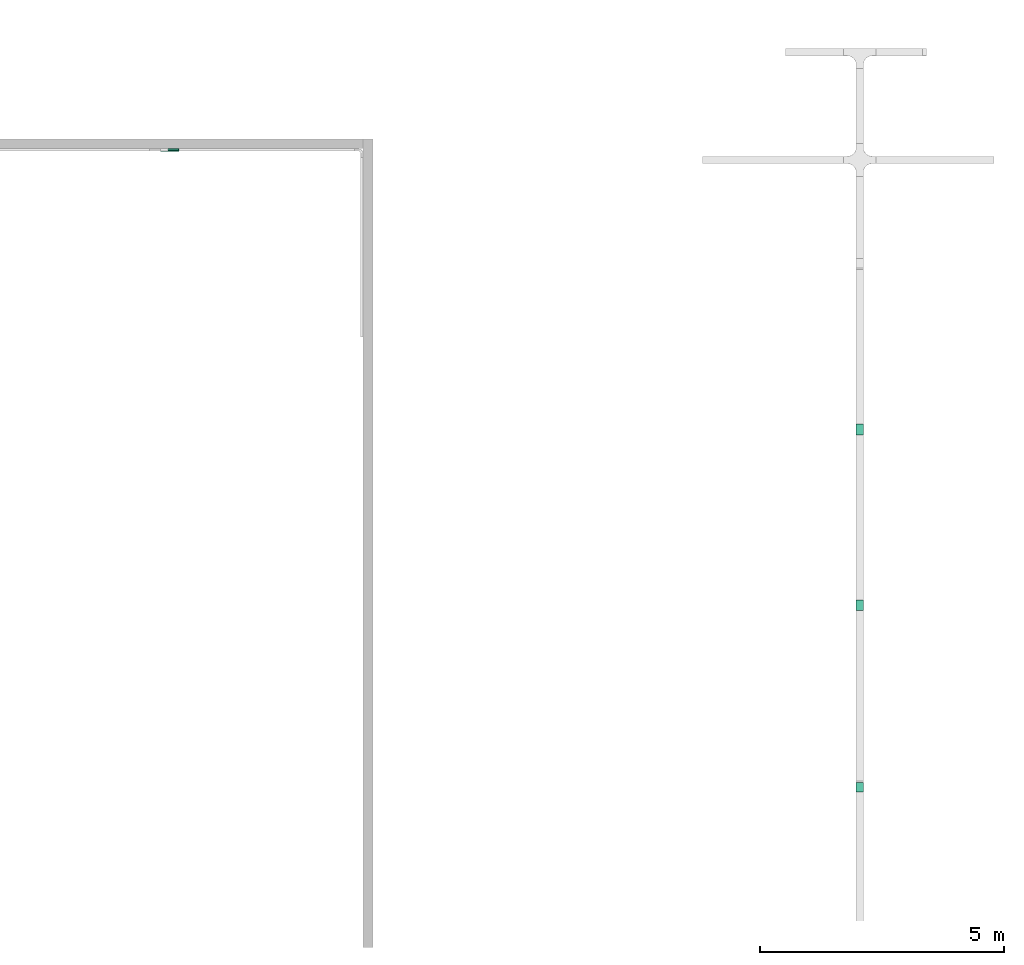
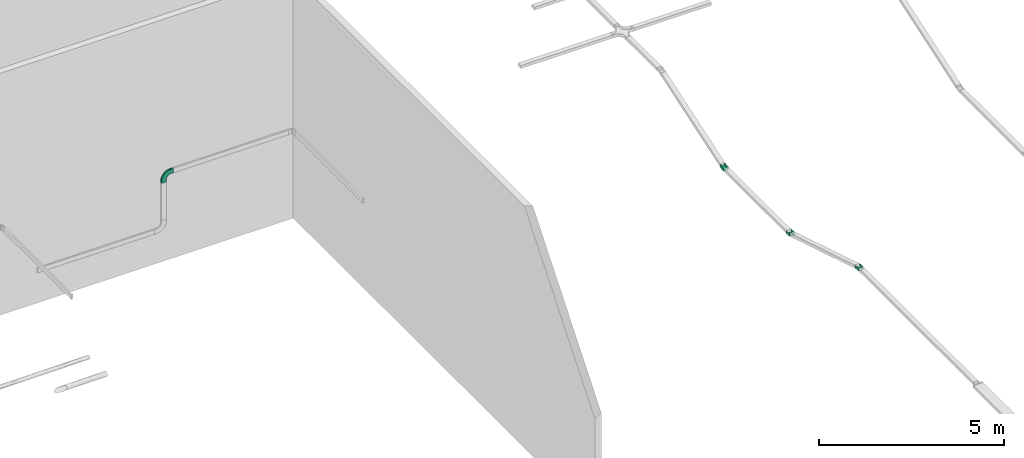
# One storey, part 39 of 197: 4 flow fittings.
"""IFC2X3 building model written with IfcOpenShell, lengths in metres."""

from ifc_helpers import new_model, entity, si_unit, converted_unit, direction, frame, origin, place, context, subcontext, project, spatial, faceted_brep, source, transform, mapped, material, type_object, type_shapes, element, save


model = new_model("IFC2X3")

# Units and contexts
model_context = context("Model", 3, precision=1e-05, world=origin(), true_north=direction((6.123031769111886e-17, 1.0)))
body_context = subcontext(model_context, "Body", "Model", "MODEL_VIEW")
ifc_project = project(units=[si_unit("LENGTHUNIT", "METRE"), converted_unit("PLANEANGLEUNIT", "DEGREE", entity("IfcPlaneAngleMeasure", 0.017453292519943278), si_unit("PLANEANGLEUNIT", "RADIAN"), dimensions=[0, 0, 0, 0, 0, 0, 0]), si_unit("AREAUNIT", "SQUARE_METRE")], contexts=[model_context])

# Site, building, storey
site_placement = place(None, origin())
site = spatial("IfcSite", under=ifc_project, at=site_placement, Name="Default", CompositionType="ELEMENT")
building_placement = place(site_placement, origin())
building = spatial("IfcBuilding", under=site, at=building_placement, CompositionType="ELEMENT")
storey_placement = place(building_placement, origin())
storey = spatial("IfcBuildingStorey", under=building, at=storey_placement, Name="Niveau 0", CompositionType="ELEMENT", Elevation=0.0)

# Flow fittings
ifc_material = material(Name="<Unnamed>")
cable_carrier_fitting_type_1 = type_object("IfcCableCarrierFittingType", Name="Chemin de câbles - Courbure convexe:CDC CFA", PredefinedType="NOTDEFINED", material=ifc_material)
shared_shape_1 = source(origin(), body_context, "Body", "Brep", [
    faceted_brep([(-0.10489020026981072, -0.050000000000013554, -0.07500000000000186), (-0.10489020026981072, -0.050000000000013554, -0.07246000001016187), (-0.10489020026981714, 0.04746000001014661, -0.07246000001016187), (-0.10489020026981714, 0.047460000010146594, 0.07246000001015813), (-0.10489020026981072, -0.050000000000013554, 0.07246000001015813), (-0.10489020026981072, -0.050000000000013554, 0.07499999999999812), (-0.10489020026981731, 0.04999999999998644, 0.07499999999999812), (-0.10489020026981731, 0.04999999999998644, -0.07500000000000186), (-0.029890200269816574, -0.050000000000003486, 0.07499999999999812), (-0.021295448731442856, -0.04936129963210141, 0.07499999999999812), (-0.011414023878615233, -0.048626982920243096, 0.07499999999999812), (-0.00217593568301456, -0.0479404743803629, 0.07499999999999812), (0.007062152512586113, -0.0472539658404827, 0.07499999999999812), (0.016097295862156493, -0.045209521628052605, 0.07499999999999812), (0.025132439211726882, -0.04316507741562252, 0.07499999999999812), (0.03479678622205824, -0.04097825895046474, 0.07499999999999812), (0.04320272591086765, -0.03907618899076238, 0.07499999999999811), (0.11492558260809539, -0.017148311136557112, 0.0749999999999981), (0.08568841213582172, 0.07848216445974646, 0.0749999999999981), (0.013965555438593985, 0.056554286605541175, 0.07499999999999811), (-0.007718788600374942, 0.05164762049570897, 0.07499999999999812), (-0.029890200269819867, 0.04999999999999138, 0.07499999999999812), (-0.029890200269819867, 0.04999999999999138, -0.07500000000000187), (-0.007718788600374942, 0.05164762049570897, -0.07500000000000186), (0.013965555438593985, 0.05655428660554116, -0.07500000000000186), (0.08568841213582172, 0.07848216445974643, -0.07500000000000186), (0.11492558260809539, -0.017148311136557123, -0.07500000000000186), (0.04320272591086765, -0.039076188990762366, -0.07500000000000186), (0.0347967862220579, -0.040978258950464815, -0.07500000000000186), (0.025132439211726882, -0.04316507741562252, -0.07500000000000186), (0.01609729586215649, -0.045209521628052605, -0.07500000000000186), (0.007062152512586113, -0.0472539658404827, -0.07500000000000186), (-0.002819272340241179, -0.047988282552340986, -0.07500000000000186), (-0.012700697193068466, -0.04872259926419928, -0.07500000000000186), (-0.029890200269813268, -0.050000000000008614, -0.07500000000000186), (-0.029890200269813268, -0.050000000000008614, -0.07246000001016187), (-0.029890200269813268, -0.050000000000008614, 0.07246000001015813), (-0.020652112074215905, -0.049313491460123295, -0.07246000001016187), (-0.011414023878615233, -0.048626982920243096, -0.07246000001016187), (-0.0021759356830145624, -0.0479404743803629, -0.07246000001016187), (0.007062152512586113, -0.0472539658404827, -0.07246000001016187), (0.016097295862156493, -0.045209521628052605, -0.07246000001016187), (0.02513243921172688, -0.04316507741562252, -0.07246000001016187), (0.03416758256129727, -0.041120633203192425, -0.07246000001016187), (0.04320272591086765, -0.03907618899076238, -0.07246000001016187), (0.11492558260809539, -0.017148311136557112, -0.07246000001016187), (0.08643103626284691, 0.07605315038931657, -0.07246000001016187), (0.01470817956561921, 0.0541252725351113, -0.07246000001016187), (-0.007343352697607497, 0.04913552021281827, -0.07246000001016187), (-0.029890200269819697, 0.047460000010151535, -0.07246000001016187), (-0.029890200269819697, 0.04746000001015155, 0.07246000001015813), (-0.007343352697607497, 0.04913552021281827, 0.07246000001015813), (0.014708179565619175, 0.05412527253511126, 0.07246000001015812), (0.08643103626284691, 0.07605315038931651, 0.07246000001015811), (0.11492558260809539, -0.01714831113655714, 0.07246000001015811), (0.04320272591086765, -0.039076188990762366, 0.07246000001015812), (0.03416758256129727, -0.041120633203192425, 0.07246000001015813), (0.02513243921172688, -0.04316507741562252, 0.07246000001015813), (0.01609729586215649, -0.045209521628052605, 0.07246000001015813), (0.007062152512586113, -0.0472539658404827, 0.07246000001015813), (-0.0021759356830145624, -0.0479404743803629, 0.07246000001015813), (-0.011414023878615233, -0.048626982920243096, 0.07246000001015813), (-0.020652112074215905, -0.049313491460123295, 0.07246000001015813)], [[[0, 1, 2, 3, 4, 5, 6, 7]], [[5, 8, 9, 10, 11, 12, 13, 14, 15, 16, 17, 18, 19, 20, 21, 6]], [[7, 6, 21, 22]], [[7, 22, 23, 24, 25, 26, 27, 28, 29, 30, 31, 32, 33, 34, 0]], [[1, 0, 34, 35]], [[5, 4, 36, 8]], [[1, 35, 37, 38, 39, 40, 41, 42, 43, 44, 45, 46, 47, 48, 49, 2]], [[3, 2, 49, 50]], [[3, 50, 51, 52, 53, 54, 55, 56, 57, 58, 59, 60, 61, 62, 36, 4]], [[22, 21, 20, 23]], [[19, 24, 23, 20]], [[38, 37, 35, 34, 33, 32, 31, 40, 39]], [[9, 8, 36, 62, 61, 60, 59, 12, 11, 10]], [[28, 27, 44, 43, 42, 41, 40, 31, 30, 29]], [[12, 59, 58, 57, 56, 55, 16, 15, 14, 13]], [[51, 50, 49, 48]], [[51, 48, 47, 52]], [[25, 18, 17, 54, 53, 46, 45, 26]], [[24, 19, 18, 25]], [[44, 27, 26, 45]], [[16, 55, 54, 17]], [[52, 47, 46, 53]]]),
])
type_shapes(cable_carrier_fitting_type_1, [shared_shape_1])
flow_fitting_1_placement = place(storey_placement, frame((-510.12398006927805, 138.7895130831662, 2.7499999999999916), z_axis=(-1.0, 0.0, 0.0), x_axis=(0.0, 1.0, 0.0)))
element("IfcFlowFitting", 1, at=flow_fitting_1_placement, inside=storey, type_object=cable_carrier_fitting_type_1, material=ifc_material, Name="Chemin de câbles - Courbure convexe:CDC CFA", ObjectType="Chemin de câbles - Courbure convexe:CDC CFA", context=body_context, shape_type="MappedRepresentation", body=[
    mapped(shared_shape_1, transform((0.0, 0.0, 0.0), scale=1.0)),
])
cable_carrier_fitting_type_2 = type_object("IfcCableCarrierFittingType", Name="Chemin de câbles - Courbure concave:CDC CFA", PredefinedType="NOTDEFINED", material=ifc_material)
shared_shape_2 = source(origin(), body_context, "Body", "Brep", [
    faceted_brep([(-0.10489020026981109, -0.047460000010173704, -0.07246000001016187), (-0.10489020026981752, 0.04999999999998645, -0.07246000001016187), (-0.10489020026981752, 0.04999999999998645, -0.07500000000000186), (-0.10489020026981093, -0.05000000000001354, -0.07500000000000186), (-0.10489020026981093, -0.05000000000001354, 0.07499999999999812), (-0.10489020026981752, 0.04999999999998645, 0.07499999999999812), (-0.10489020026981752, 0.04999999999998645, 0.07246000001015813), (-0.10489020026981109, -0.04746000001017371, 0.07246000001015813), (-0.02989020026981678, -0.050000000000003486, 0.07499999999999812), (0.007062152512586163, -0.047253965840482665, 0.07499999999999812), (0.04320272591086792, -0.03907618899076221, 0.07499999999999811), (0.11492558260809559, -0.01714831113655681, 0.0749999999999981), (0.08568841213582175, 0.07848216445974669, 0.0749999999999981), (0.013965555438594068, 0.05655428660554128, 0.07499999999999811), (0.0031233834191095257, 0.05410095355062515, 0.07499999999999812), (-0.00771878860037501, 0.05164762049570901, 0.07499999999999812), (-0.01880449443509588, 0.05082381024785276, 0.07499999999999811), (-0.029890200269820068, 0.04999999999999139, 0.07499999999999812), (-0.02989020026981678, -0.0500000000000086, -0.07500000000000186), (-0.02989020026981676, 0.04999999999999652, -0.07500000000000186), (-0.016575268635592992, 0.05098947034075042, -0.07500000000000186), (-0.00771878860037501, 0.05164762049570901, -0.07500000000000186), (0.0009431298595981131, 0.05360761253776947, -0.07500000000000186), (0.013965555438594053, 0.056554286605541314, -0.07500000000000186), (0.08568841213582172, 0.0784821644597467, -0.07500000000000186), (0.11492558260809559, -0.017148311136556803, -0.07500000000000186), (0.043202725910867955, -0.03907618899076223, -0.07500000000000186), (0.007062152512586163, -0.047253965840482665, -0.07500000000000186), (-0.02989020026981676, 0.04999999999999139, -0.07246000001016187), (-0.02989020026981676, 0.04999999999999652, 0.07246000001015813), (-0.02989020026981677, -0.047460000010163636, -0.07246000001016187), (0.006686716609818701, -0.04474186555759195, -0.07246000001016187), (0.0424601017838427, -0.03664717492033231, -0.07246000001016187), (0.11418295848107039, -0.014719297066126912, -0.07246000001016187), (0.08568841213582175, 0.07848216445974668, -0.07246000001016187), (0.013965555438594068, 0.05655428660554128, -0.07246000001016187), (0.0031233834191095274, 0.05410095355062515, -0.07246000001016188), (-0.00771878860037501, 0.05164762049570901, -0.07246000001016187), (-0.01880449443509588, 0.05082381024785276, -0.07246000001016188), (-0.02989020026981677, -0.047460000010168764, 0.07246000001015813), (-0.01880449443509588, 0.05082381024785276, 0.07246000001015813), (-0.00771878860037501, 0.05164762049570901, 0.07246000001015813), (0.003123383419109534, 0.05410095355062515, 0.07246000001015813), (0.013965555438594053, 0.05655428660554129, 0.07246000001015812), (0.08568841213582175, 0.07848216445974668, 0.07246000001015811), (0.11418295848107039, -0.014719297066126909, 0.07246000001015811), (0.042460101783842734, -0.036647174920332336, 0.07246000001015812), (0.006686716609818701, -0.04474186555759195, 0.07246000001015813)], [[[0, 1, 2, 3, 4, 5, 6, 7]], [[4, 8, 9, 10, 11, 12, 13, 14, 15, 16, 17, 5]], [[4, 3, 18, 8]], [[2, 19, 20, 21, 22, 23, 24, 25, 26, 27, 18, 3]], [[2, 1, 28, 19]], [[6, 5, 17, 29]], [[0, 30, 31, 32, 33, 34, 35, 36, 37, 38, 28, 1]], [[0, 7, 39, 30]], [[6, 29, 40, 41, 42, 43, 44, 45, 46, 47, 39, 7]], [[9, 8, 18, 27]], [[9, 27, 26, 10]], [[21, 20, 19, 28, 38, 37]], [[17, 16, 15, 41, 40, 29]], [[36, 35, 23, 22, 21, 37]], [[15, 14, 13, 43, 42, 41]], [[31, 30, 39, 47]], [[46, 32, 31, 47]], [[24, 34, 33, 45, 44, 12, 11, 25]], [[10, 26, 25, 11]], [[23, 35, 34, 24]], [[43, 13, 12, 44]], [[32, 46, 45, 33]]]),
])
type_shapes(cable_carrier_fitting_type_2, [shared_shape_2])
flow_fitting_2_placement = place(storey_placement, frame((-510.12398006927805, 142.50858227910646, 1.6129664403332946), z_axis=(1.0, 0.0, 0.0), x_axis=(0.0, 0.9563047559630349, -0.2923717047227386)))
element("IfcFlowFitting", 2, at=flow_fitting_2_placement, inside=storey, type_object=cable_carrier_fitting_type_2, material=ifc_material, Name="Chemin de câbles - Courbure concave:CDC CFA", ObjectType="Chemin de câbles - Courbure concave:CDC CFA", context=body_context, shape_type="MappedRepresentation", body=[
    mapped(shared_shape_2, transform((0.0, 0.0, 0.0), scale=1.0)),
])
cable_carrier_fitting_type_3 = type_object("IfcCableCarrierFittingType", Name="Chemin de câbles - Courbure concave:CDC CFA", PredefinedType="NOTDEFINED", material=ifc_material)
shared_shape_3 = source(origin(), body_context, "Body", "Brep", [
    faceted_brep([(-0.10757218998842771, -0.047460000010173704, -0.07246000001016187), (-0.10757218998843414, 0.04999999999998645, -0.07246000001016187), (-0.10757218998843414, 0.04999999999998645, -0.07500000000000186), (-0.10757218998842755, -0.05000000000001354, -0.07500000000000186), (-0.10757218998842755, -0.05000000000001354, 0.07499999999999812), (-0.10757218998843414, 0.04999999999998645, 0.07499999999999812), (-0.10757218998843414, 0.04999999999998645, 0.07246000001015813), (-0.10757218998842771, -0.04746000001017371, 0.07246000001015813), (-0.0325721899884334, -0.050000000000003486, 0.07499999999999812), (0.007613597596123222, -0.046749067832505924, 0.07499999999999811), (0.046754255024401, -0.03708081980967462, 0.07499999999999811), (0.11787850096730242, -0.013282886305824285, 0.0749999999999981), (0.08614792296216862, 0.08154944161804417, 0.0749999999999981), (0.01502367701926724, 0.057751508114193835, 0.07499999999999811), (0.0032814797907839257, 0.05485103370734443, 0.07499999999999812), (-0.008460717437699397, 0.05195055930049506, 0.07499999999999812), (-0.020516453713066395, 0.050975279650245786, 0.07499999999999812), (-0.032572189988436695, 0.04999999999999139, 0.07499999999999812), (-0.0325721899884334, -0.0500000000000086, -0.07500000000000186), (-0.032572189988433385, 0.04999999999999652, -0.07500000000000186), (-0.01926626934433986, 0.05107641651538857, -0.07500000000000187), (-0.008460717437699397, 0.05195055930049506, -0.07500000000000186), (0.00206380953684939, 0.05455025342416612, -0.07500000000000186), (0.015023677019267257, 0.05775150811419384, -0.07500000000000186), (0.08614792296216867, 0.08154944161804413, -0.07500000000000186), (0.11787850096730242, -0.013282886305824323, -0.07500000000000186), (0.046754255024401, -0.03708081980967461, -0.07500000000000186), (0.007613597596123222, -0.046749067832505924, -0.07500000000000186), (-0.032572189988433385, 0.04999999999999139, -0.07246000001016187), (-0.032572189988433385, 0.04999999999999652, 0.07246000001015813), (-0.03257218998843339, -0.047460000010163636, -0.07246000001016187), (0.007205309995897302, -0.04424209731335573, -0.07246000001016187), (0.04594829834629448, -0.03467207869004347, -0.07246000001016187), (0.1170725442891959, -0.010874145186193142, -0.07246000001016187), (0.08614792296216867, 0.08154944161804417, -0.07246000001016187), (0.01502367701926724, 0.057751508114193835, -0.07246000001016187), (0.0032814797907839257, 0.05485103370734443, -0.07246000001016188), (-0.008460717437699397, 0.05195055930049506, -0.07246000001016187), (-0.020516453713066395, 0.050975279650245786, -0.07246000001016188), (-0.03257218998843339, -0.047460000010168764, 0.07246000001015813), (-0.020516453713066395, 0.050975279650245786, 0.07246000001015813), (-0.008460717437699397, 0.05195055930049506, 0.07246000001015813), (0.0032814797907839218, 0.054851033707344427, 0.07246000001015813), (0.01502367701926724, 0.057751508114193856, 0.07246000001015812), (0.08614792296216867, 0.08154944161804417, 0.07246000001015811), (0.11707254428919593, -0.010874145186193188, 0.07246000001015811), (0.04594829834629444, -0.0346720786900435, 0.07246000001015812), (0.007205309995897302, -0.04424209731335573, 0.07246000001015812)], [[[0, 1, 2, 3, 4, 5, 6, 7]], [[4, 8, 9, 10, 11, 12, 13, 14, 15, 16, 17, 5]], [[4, 3, 18, 8]], [[2, 19, 20, 21, 22, 23, 24, 25, 26, 27, 18, 3]], [[2, 1, 28, 19]], [[6, 5, 17, 29]], [[0, 30, 31, 32, 33, 34, 35, 36, 37, 38, 28, 1]], [[0, 7, 39, 30]], [[6, 29, 40, 41, 42, 43, 44, 45, 46, 47, 39, 7]], [[8, 18, 27, 9]], [[9, 27, 26, 10]], [[21, 20, 19, 28, 38, 37]], [[17, 16, 15, 41, 40, 29]], [[36, 35, 23, 22, 21, 37]], [[15, 14, 13, 43, 42, 41]], [[31, 30, 39, 47]], [[46, 32, 31, 47]], [[24, 34, 33, 45, 44, 12, 11, 25]], [[10, 26, 25, 11]], [[23, 35, 34, 24]], [[43, 13, 12, 44]], [[32, 46, 45, 33]]]),
])
type_shapes(cable_carrier_fitting_type_3, [shared_shape_3])
flow_fitting_3_placement = place(storey_placement, frame((-510.12398006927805, 146.09958227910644, 1.6129664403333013), z_axis=(1.0, 0.0, 0.0), x_axis=(0.0, 1.0, 0.0)))
element("IfcFlowFitting", 3, at=flow_fitting_3_placement, inside=storey, type_object=cable_carrier_fitting_type_3, material=ifc_material, Name="Chemin de câbles - Courbure concave:CDC CFA", ObjectType="Chemin de câbles - Courbure concave:CDC CFA", context=body_context, shape_type="MappedRepresentation", body=[
    mapped(shared_shape_3, transform((0.0, 0.0, 0.0), scale=1.0)),
])
cable_carrier_fitting_type_4 = type_object("IfcCableCarrierFittingType", Name="Chemin de câbles - Courbure convexe:GOULOTTE", PredefinedType="NOTDEFINED", material=ifc_material)
shared_shape_4 = source(origin(), body_context, "Body", "Brep", [
    faceted_brep([(-0.2999999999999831, -0.07500000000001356, -0.025000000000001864), (-0.2999999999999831, -0.07500000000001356, -0.022460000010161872), (-0.29999999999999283, 0.0724600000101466, -0.022460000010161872), (-0.29999999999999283, 0.0724600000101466, 0.022460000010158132), (-0.2999999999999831, -0.07500000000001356, 0.022460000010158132), (-0.2999999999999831, -0.07500000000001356, 0.024999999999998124), (-0.299999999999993, 0.07499999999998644, 0.024999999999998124), (-0.299999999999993, 0.07499999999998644, -0.025000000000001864), (-0.22499999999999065, -0.0750000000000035, 0.024999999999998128), (-0.21561089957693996, -0.07407525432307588, 0.024999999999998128), (-0.20622179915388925, -0.07315050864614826, 0.024999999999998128), (-0.19683269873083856, -0.07222576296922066, 0.024999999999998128), (-0.1874435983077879, -0.07130101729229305, 0.024999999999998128), (-0.17695825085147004, -0.07026830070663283, 0.024999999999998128), (-0.16647290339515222, -0.06923558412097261, 0.02499999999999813), (-0.15240342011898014, -0.06496765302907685, 0.024999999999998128), (-0.138333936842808, -0.0606997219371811, 0.024999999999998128), (-0.12426445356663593, -0.056431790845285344, 0.024999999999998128), (-0.11019497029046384, -0.05216385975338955, 0.02499999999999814), (-0.09722846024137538, -0.04523311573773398, 0.024999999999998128), (-0.08426195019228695, -0.038302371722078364, 0.02499999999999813), (-0.0712954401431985, -0.031371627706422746, 0.024999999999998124), (-0.05832893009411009, -0.02444088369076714, 0.02499999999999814), (-0.04696368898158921, -0.015113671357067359, 0.024999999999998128), (-0.035598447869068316, -0.0057864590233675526, 0.024999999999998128), (-0.024233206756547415, 0.0035407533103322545, 0.024999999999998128), (-0.012867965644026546, 0.01286796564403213, 0.024999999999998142), (-0.0035407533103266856, 0.02423320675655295, 0.024999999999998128), (0.005786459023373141, 0.03559844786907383, 0.024999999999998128), (0.015113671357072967, 0.04696368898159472, 0.024999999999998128), (0.02444088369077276, 0.058328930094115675, 0.024999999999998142), (0.031371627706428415, 0.071295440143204, 0.024999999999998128), (0.03830237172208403, 0.08426195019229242, 0.024999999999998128), (0.04523311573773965, 0.09722846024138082, 0.024999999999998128), (0.05216385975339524, 0.11019497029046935, 0.024999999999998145), (0.056431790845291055, 0.12426445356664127, 0.024999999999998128), (0.06069972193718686, 0.13833393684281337, 0.024999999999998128), (0.06496765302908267, 0.15240342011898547, 0.02499999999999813), (0.06923558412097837, 0.16647290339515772, 0.024999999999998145), (0.0706766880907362, 0.18110467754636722, 0.024999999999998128), (0.07211779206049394, 0.1957364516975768, 0.024999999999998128), (0.07315050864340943, 0.20622179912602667, 0.024999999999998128), (0.07407525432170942, 0.21561089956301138, 0.024999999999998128), (0.07500000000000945, 0.2249999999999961, 0.024999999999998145), (0.07500000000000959, 0.29999999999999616, 0.024999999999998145), (-0.07499999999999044, 0.29999999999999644, 0.02499999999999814), (-0.07499999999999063, 0.2249999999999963, 0.02499999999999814), (-0.08011112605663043, 0.1861771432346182, 0.02499999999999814), (-0.0950961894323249, 0.14999999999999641, 0.02499999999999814), (-0.11893398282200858, 0.11893398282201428, 0.02499999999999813), (-0.1499999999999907, 0.09509618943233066, 0.02499999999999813), (-0.18617714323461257, 0.08011112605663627, 0.02499999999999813), (-0.2249999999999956, 0.07499999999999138, 0.024999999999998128), (-0.2249999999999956, 0.07499999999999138, -0.025000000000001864), (-0.18617714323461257, 0.08011112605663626, -0.02500000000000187), (-0.1499999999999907, 0.09509618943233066, -0.02500000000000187), (-0.11893398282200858, 0.1189339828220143, -0.02500000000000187), (-0.0950961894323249, 0.1499999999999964, -0.025000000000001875), (-0.08011112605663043, 0.1861771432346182, -0.025000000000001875), (-0.07499999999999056, 0.2249999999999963, -0.025000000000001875), (-0.07499999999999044, 0.2999999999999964, -0.025000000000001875), (0.07500000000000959, 0.29999999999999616, -0.025000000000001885), (0.07500000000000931, 0.22499999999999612, -0.025000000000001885), (0.07407525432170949, 0.2156108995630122, -0.025000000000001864), (0.07315050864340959, 0.2062217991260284, -0.025000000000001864), (0.07211779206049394, 0.19573645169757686, -0.025000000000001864), (0.0706766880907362, 0.18110467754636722, -0.025000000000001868), (0.06923558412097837, 0.16647290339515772, -0.025000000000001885), (0.06496765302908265, 0.15240342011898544, -0.025000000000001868), (0.06069972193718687, 0.1383339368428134, -0.025000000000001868), (0.05643179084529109, 0.12426445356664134, -0.025000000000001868), (0.05216385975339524, 0.11019497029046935, -0.025000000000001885), (0.04523311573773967, 0.09722846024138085, -0.025000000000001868), (0.038302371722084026, 0.08426195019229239, -0.025000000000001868), (0.031371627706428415, 0.071295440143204, -0.025000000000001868), (0.02444088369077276, 0.058328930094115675, -0.02500000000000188), (0.015113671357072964, 0.04696368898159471, -0.025000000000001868), (0.005786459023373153, 0.03559844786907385, -0.025000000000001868), (-0.0035407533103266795, 0.024233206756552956, -0.025000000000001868), (-0.012867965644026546, 0.01286796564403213, -0.02500000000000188), (-0.024233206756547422, 0.003540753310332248, -0.025000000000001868), (-0.0355984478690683, -0.00578645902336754, -0.025000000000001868), (-0.046963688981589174, -0.015113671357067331, -0.02500000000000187), (-0.05832893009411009, -0.02444088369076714, -0.025000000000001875), (-0.07129544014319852, -0.03137162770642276, -0.025000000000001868), (-0.08426195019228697, -0.038302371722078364, -0.025000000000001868), (-0.09722846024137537, -0.04523311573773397, -0.025000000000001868), (-0.11019497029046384, -0.05216385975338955, -0.025000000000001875), (-0.12426445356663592, -0.056431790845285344, -0.025000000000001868), (-0.138333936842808, -0.0606997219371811, -0.025000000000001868), (-0.15240342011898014, -0.06496765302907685, -0.02500000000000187), (-0.16647290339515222, -0.06923558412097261, -0.02500000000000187), (-0.17695825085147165, -0.070268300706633, -0.025000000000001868), (-0.18744359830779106, -0.07130101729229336, -0.025000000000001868), (-0.19683269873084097, -0.0722257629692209, -0.025000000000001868), (-0.20622179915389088, -0.07315050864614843, -0.025000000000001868), (-0.21561089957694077, -0.07407525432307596, -0.025000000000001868), (-0.2249999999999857, -0.07500000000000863, -0.025000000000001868), (-0.2249999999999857, -0.07500000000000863, -0.02246000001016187), (-0.2249999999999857, -0.07500000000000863, 0.02246000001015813), (-0.21561089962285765, -0.07407525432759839, -0.02246000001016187), (-0.2062217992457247, -0.07315050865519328, -0.02246000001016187), (-0.19573645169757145, -0.07211779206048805, -0.02246000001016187), (-0.1811046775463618, -0.07067668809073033, -0.022460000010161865), (-0.16647290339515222, -0.06923558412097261, -0.022460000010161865), (-0.15240342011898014, -0.06496765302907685, -0.02246000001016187), (-0.138333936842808, -0.0606997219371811, -0.022460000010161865), (-0.12426445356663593, -0.056431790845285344, -0.02246000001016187), (-0.11019497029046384, -0.05216385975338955, -0.02246000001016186), (-0.09722846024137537, -0.045233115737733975, -0.02246000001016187), (-0.08426195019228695, -0.038302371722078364, -0.02246000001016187), (-0.07129544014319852, -0.03137162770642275, -0.02246000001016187), (-0.05832893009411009, -0.02444088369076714, -0.02246000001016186), (-0.046963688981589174, -0.01511367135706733, -0.02246000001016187), (-0.0355984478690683, -0.00578645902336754, -0.02246000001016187), (-0.024233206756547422, 0.0035407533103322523, -0.02246000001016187), (-0.012867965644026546, 0.01286796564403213, -0.022460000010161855), (-0.0035407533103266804, 0.024233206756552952, -0.02246000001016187), (0.0057864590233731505, 0.03559844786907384, -0.022460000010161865), (0.015113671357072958, 0.046963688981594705, -0.02246000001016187), (0.02444088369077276, 0.058328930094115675, -0.022460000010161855), (0.031371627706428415, 0.071295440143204, -0.02246000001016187), (0.038302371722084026, 0.08426195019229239, -0.02246000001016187), (0.04523311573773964, 0.09722846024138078, -0.02246000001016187), (0.05216385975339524, 0.11019497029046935, -0.02246000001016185), (0.05643179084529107, 0.12426445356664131, -0.02246000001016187), (0.06069972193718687, 0.1383339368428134, -0.02246000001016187), (0.06496765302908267, 0.15240342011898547, -0.02246000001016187), (0.06923558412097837, 0.16647290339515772, -0.02246000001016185), (0.0706766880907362, 0.1811046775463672, -0.02246000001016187), (0.07211779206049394, 0.1957364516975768, -0.02246000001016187), (0.07355889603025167, 0.21036822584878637, -0.02246000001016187), (0.07500000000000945, 0.2249999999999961, -0.02246000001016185), (0.07500000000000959, 0.29999999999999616, -0.02246000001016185), (-0.07246000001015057, 0.29999999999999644, -0.02246000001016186), (-0.07246000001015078, 0.2249999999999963, -0.02246000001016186), (-0.07765767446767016, 0.18551974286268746, -0.02246000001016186), (-0.09289648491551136, 0.14873000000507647, -0.02246000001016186), (-0.11713793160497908, 0.11713793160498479, -0.022460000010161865), (-0.14873000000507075, 0.09289648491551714, -0.022460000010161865), (-0.1855197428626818, 0.07765767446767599, -0.022460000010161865), (-0.22499999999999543, 0.07246000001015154, -0.02246000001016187), (-0.22499999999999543, 0.07246000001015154, 0.022460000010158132), (-0.1855197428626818, 0.07765767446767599, 0.022460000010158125), (-0.14873000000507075, 0.09289648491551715, 0.022460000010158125), (-0.11713793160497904, 0.1171379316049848, 0.022460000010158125), (-0.0928964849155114, 0.14873000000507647, 0.02246000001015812), (-0.07765767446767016, 0.18551974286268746, 0.02246000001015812), (-0.07246000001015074, 0.2249999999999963, 0.02246000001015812), (-0.07246000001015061, 0.29999999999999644, 0.02246000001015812), (0.07500000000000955, 0.29999999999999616, 0.02246000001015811), (0.07500000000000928, 0.22499999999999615, 0.02246000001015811), (0.07355889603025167, 0.21036822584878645, 0.022460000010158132), (0.07211779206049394, 0.1957364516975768, 0.022460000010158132), (0.0706766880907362, 0.1811046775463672, 0.02246000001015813), (0.0692355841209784, 0.16647290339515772, 0.02246000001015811), (0.06496765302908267, 0.15240342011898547, 0.02246000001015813), (0.06069972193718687, 0.1383339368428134, 0.02246000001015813), (0.05643179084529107, 0.12426445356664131, 0.02246000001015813), (0.05216385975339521, 0.11019497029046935, 0.02246000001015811), (0.045233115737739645, 0.0972284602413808, 0.02246000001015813), (0.038302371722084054, 0.08426195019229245, 0.02246000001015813), (0.03137162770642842, 0.07129544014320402, 0.02246000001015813), (0.024440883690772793, 0.058328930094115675, 0.022460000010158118), (0.01511367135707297, 0.046963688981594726, 0.02246000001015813), (0.005786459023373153, 0.03559844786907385, 0.02246000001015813), (-0.0035407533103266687, 0.024233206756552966, 0.02246000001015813), (-0.012867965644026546, 0.01286796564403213, 0.022460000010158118), (-0.024233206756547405, 0.003540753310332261, 0.02246000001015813), (-0.0355984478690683, -0.00578645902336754, 0.02246000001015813), (-0.046963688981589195, -0.015113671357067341, 0.02246000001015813), (-0.05832893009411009, -0.02444088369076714, 0.02246000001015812), (-0.07129544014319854, -0.03137162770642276, 0.02246000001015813), (-0.08426195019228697, -0.038302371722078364, 0.02246000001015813), (-0.09722846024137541, -0.045233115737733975, 0.02246000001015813), (-0.11019497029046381, -0.05216385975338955, 0.02246000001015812), (-0.12426445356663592, -0.056431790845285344, 0.02246000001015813), (-0.138333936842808, -0.0606997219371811, 0.02246000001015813), (-0.15240342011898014, -0.06496765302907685, 0.02246000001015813), (-0.16647290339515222, -0.06923558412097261, 0.022460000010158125), (-0.18110467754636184, -0.07067668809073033, 0.02246000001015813), (-0.19573645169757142, -0.07211779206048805, 0.022460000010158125), (-0.21036822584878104, -0.07355889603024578, 0.02246000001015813)], [[[0, 1, 2, 3, 4, 5, 6, 7]], [[6, 5, 8, 9, 10, 11, 12, 13, 14, 15, 16, 17, 18, 19, 20, 21, 22, 23, 24, 25, 26, 27, 28, 29, 30, 31, 32, 33, 34, 35, 36, 37, 38, 39, 40, 41, 42, 43, 44, 45, 46, 47, 48, 49, 50, 51, 52]], [[7, 6, 52, 53]], [[53, 54, 55, 56, 57, 58, 59, 60, 61, 62, 63, 64, 65, 66, 67, 68, 69, 70, 71, 72, 73, 74, 75, 76, 77, 78, 79, 80, 81, 82, 83, 84, 85, 86, 87, 88, 89, 90, 91, 92, 93, 94, 95, 96, 97, 0, 7]], [[1, 0, 97, 98]], [[5, 4, 99, 8]], [[2, 1, 98, 100, 101, 102, 103, 104, 105, 106, 107, 108, 109, 110, 111, 112, 113, 114, 115, 116, 117, 118, 119, 120, 121, 122, 123, 124, 125, 126, 127, 128, 129, 130, 131, 132, 133, 134, 135, 136, 137, 138, 139, 140, 141]], [[3, 2, 141, 142]], [[142, 143, 144, 145, 146, 147, 148, 149, 150, 151, 152, 153, 154, 155, 156, 157, 158, 159, 160, 161, 162, 163, 164, 165, 166, 167, 168, 169, 170, 171, 172, 173, 174, 175, 176, 177, 178, 179, 180, 181, 182, 99, 4, 3]], [[54, 53, 52, 51]], [[55, 54, 51, 50]], [[55, 50, 49, 56]], [[47, 46, 59, 58]], [[47, 58, 57, 48]], [[56, 49, 48, 57]], [[104, 103, 102, 101, 100, 98, 97, 96, 95, 94, 93, 92, 91]], [[182, 181, 180, 179, 14, 13, 12, 11, 10, 9, 8, 99]], [[114, 113, 112, 83, 82, 81, 80, 79, 116, 115]], [[24, 23, 22, 171, 170, 169, 168, 167, 26, 25]], [[88, 87, 108, 107, 106, 105, 104, 91, 90, 89]], [[176, 175, 18, 17, 16, 15, 14, 179, 178, 177]], [[84, 83, 112, 111, 110, 109, 108, 87, 86, 85]], [[19, 18, 175, 174, 173, 172, 171, 22, 21, 20]], [[72, 71, 124, 123, 122, 121, 120, 75, 74, 73]], [[31, 30, 163, 162, 161, 160, 159, 34, 33, 32]], [[69, 68, 67, 128, 127, 126, 125, 124, 71, 70]], [[158, 157, 156, 155, 38, 37, 36, 35, 34, 159]], [[131, 130, 129, 128, 67, 66, 65, 64, 63, 62, 132]], [[154, 153, 152, 151, 43, 42, 41, 40, 39, 38, 155]], [[118, 117, 116, 79, 78, 77, 76, 75, 120, 119]], [[28, 27, 26, 167, 166, 165, 164, 163, 30, 29]], [[143, 142, 141, 140]], [[144, 143, 140, 139]], [[145, 144, 139, 138]], [[136, 135, 148, 147]], [[146, 137, 136, 147]], [[137, 146, 145, 138]], [[60, 45, 44, 150, 149, 134, 133, 61]], [[59, 46, 45, 60]], [[132, 62, 61, 133]], [[43, 151, 150, 44]], [[148, 135, 134, 149]]]),
])
type_shapes(cable_carrier_fitting_type_4, [shared_shape_4])
flow_fitting_4_placement = place(storey_placement, frame((-524.361454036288, 151.82535524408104, 2.9257853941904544), z_axis=(0.0, 1.0, 0.0), x_axis=(0.0, 0.0, 1.0)))
element("IfcFlowFitting", 4, at=flow_fitting_4_placement, inside=storey, type_object=cable_carrier_fitting_type_4, material=ifc_material, Name="Chemin de câbles - Courbure convexe:GOULOTTE", ObjectType="Chemin de câbles - Courbure convexe:GOULOTTE", context=body_context, shape_type="MappedRepresentation", body=[
    mapped(shared_shape_4, transform((0.0, 0.0, 0.0), scale=1.0)),
])

save(model, "model.ifc")
